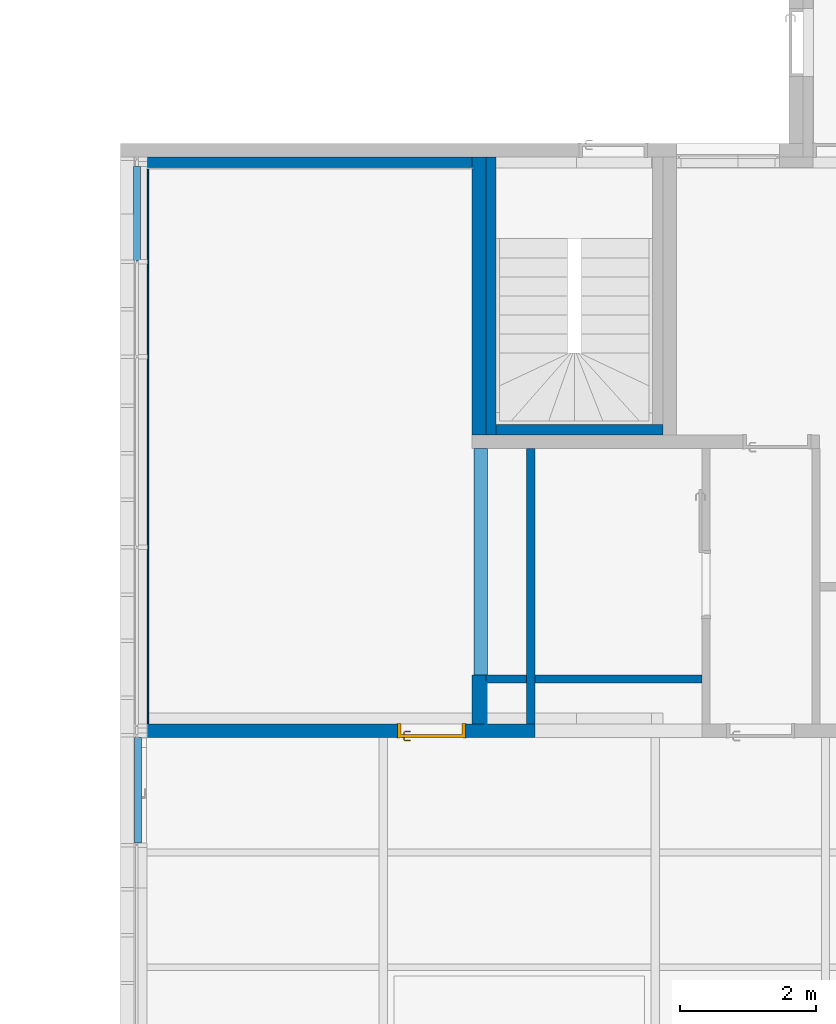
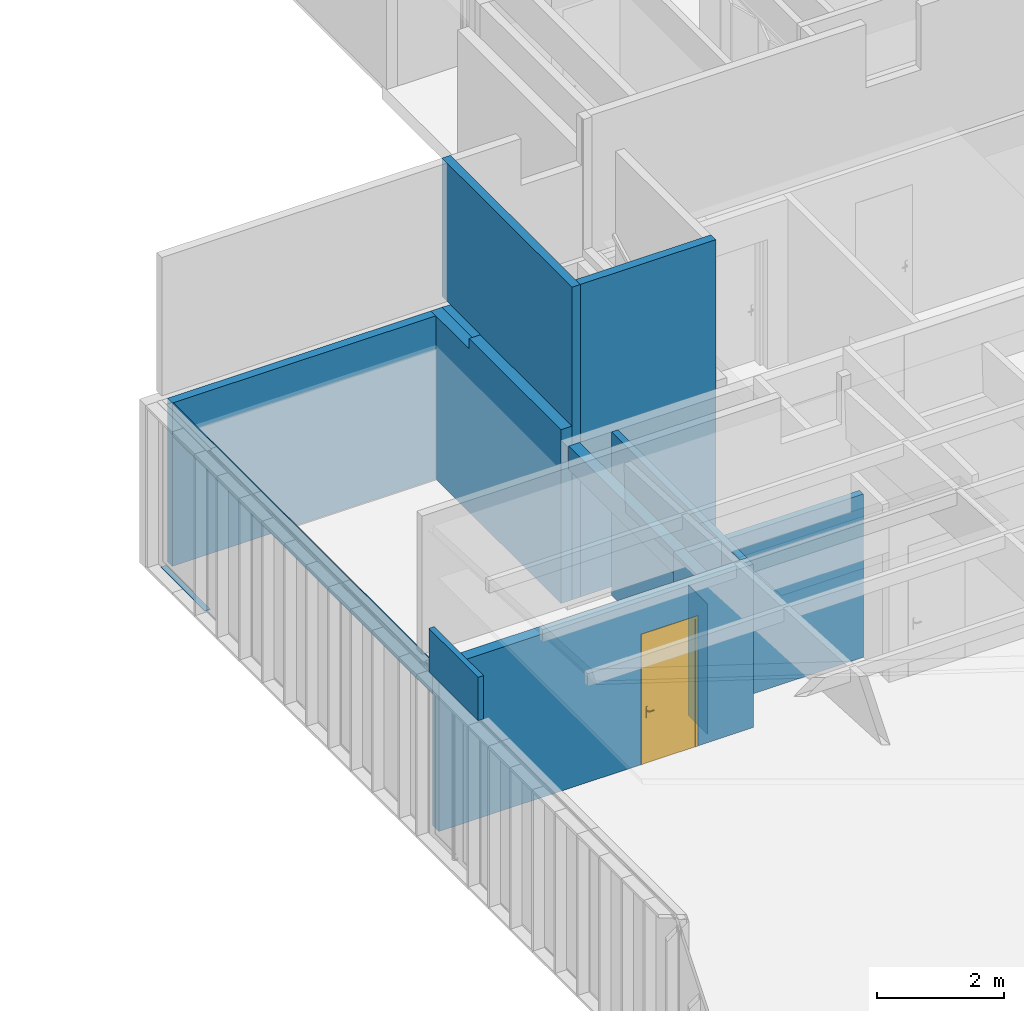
# One storey, part 82 of 240: 13 walls, 1 door, 5 openings, 1 element without a shape of its own.
"""IFC2X3 building model written with IfcOpenShell, lengths in centimetres."""

from ifc_helpers import new_model, entity, si_unit, converted_unit, derived_unit, direction, frame, frame_2d, origin, origin_2d_with_axis, place, context, subcontext, project, spatial, polyline, rectangle, extrude, clip, bounded_halfspace, faceted_brep, source, transform, mapped, material, material_list, layer, layer_set, layer_usage, type_object, type_shapes, element, fill, aggregate, save


model = new_model("IFC2X3")

# Units and contexts
model_context = context("Model", 3, precision=0.001, world=origin(), true_north=direction((6.12303176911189e-17, 1.0)))
body_context = subcontext(model_context, "Body", "Model", "MODEL_VIEW")
ifc_project = project(units=[si_unit("LENGTHUNIT", "METRE", prefix="CENTI"), si_unit("AREAUNIT", "SQUARE_METRE"), si_unit("VOLUMEUNIT", "CUBIC_METRE"), converted_unit("PLANEANGLEUNIT", "DEGREE", entity("IfcRatioMeasure", 0.0174532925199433), si_unit("PLANEANGLEUNIT", "RADIAN"), dimensions=[0, 0, 0, 0, 0, 0, 0]), si_unit("MASSUNIT", "GRAM", prefix="KILO"), derived_unit("MASSDENSITYUNIT", [(si_unit("MASSUNIT", "GRAM", prefix="KILO"), 1), (si_unit("LENGTHUNIT", "METRE"), -3)]), si_unit("TIMEUNIT", "SECOND"), si_unit("FREQUENCYUNIT", "HERTZ"), si_unit("THERMODYNAMICTEMPERATUREUNIT", "DEGREE_CELSIUS"), derived_unit("THERMALTRANSMITTANCEUNIT", [(si_unit("MASSUNIT", "GRAM", prefix="KILO"), 1), (si_unit("THERMODYNAMICTEMPERATUREUNIT", "KELVIN"), -1), (si_unit("TIMEUNIT", "SECOND"), -3)]), derived_unit("VOLUMETRICFLOWRATEUNIT", [(si_unit("LENGTHUNIT", "METRE"), 3), (si_unit("TIMEUNIT", "SECOND"), -1)]), si_unit("ELECTRICCURRENTUNIT", "AMPERE"), si_unit("ELECTRICVOLTAGEUNIT", "VOLT"), si_unit("POWERUNIT", "WATT"), si_unit("FORCEUNIT", "NEWTON", prefix="KILO"), si_unit("ILLUMINANCEUNIT", "LUX"), si_unit("LUMINOUSFLUXUNIT", "LUMEN"), si_unit("LUMINOUSINTENSITYUNIT", "CANDELA"), derived_unit("USERDEFINED", [(si_unit("MASSUNIT", "GRAM", prefix="KILO"), -1), (si_unit("LENGTHUNIT", "METRE"), -2), (si_unit("TIMEUNIT", "SECOND"), 3), (si_unit("LUMINOUSFLUXUNIT", "LUMEN"), 1)]), derived_unit("LINEARVELOCITYUNIT", [(si_unit("LENGTHUNIT", "METRE"), 1), (si_unit("TIMEUNIT", "SECOND"), -1)]), si_unit("PRESSUREUNIT", "PASCAL"), derived_unit("USERDEFINED", [(si_unit("LENGTHUNIT", "METRE"), -2), (si_unit("MASSUNIT", "GRAM", prefix="KILO"), 1), (si_unit("TIMEUNIT", "SECOND"), -2)])], contexts=[model_context])

# Site, building, storey
site_placement = place(None, frame((-2781.94577612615, 7442.24238424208, 0.0)))
site = spatial("IfcSite", under=ifc_project, at=site_placement, Name="Default", CompositionType="ELEMENT")
building_placement = place(site_placement, origin())
building = spatial("IfcBuilding", under=site, at=building_placement, CompositionType="ELEMENT")
storey_placement = place(building_placement, origin())
storey = spatial("IfcBuildingStorey", under=building, at=storey_placement, Name="N00 - COO", CompositionType="ELEMENT", Elevation=0.0)

# Walls
ifc_material_1 = material(Name="00 - Isolant")
ifc_layer_1 = layer(ifc_material_1, 14.0)
ifc_material_2 = material(Name="01 - Enduit/Plâtre")
ifc_layer_2 = layer(ifc_material_2, 1.3)
ifc_layer_set_1 = layer_set([ifc_layer_1, ifc_layer_2], Name="Mur de base:04 - Parement -  isolant 14 cm + BA13")
ifc_layer_usage_1 = layer_usage(ifc_layer_set_1, "AXIS2", "NEGATIVE", 7.65)
wall_type_1 = type_object("IfcWallType", Name="Mur de base:04 - Parement -  isolant 14 cm + BA13", PredefinedType="STANDARD", material=ifc_layer_set_1)
wall_1_placement = place(building_placement, frame((-11844.8844031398, -3380.17180651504, 0.0)))
element("IfcWallStandardCase", 1, at=wall_1_placement, inside=storey, type_object=wall_type_1, material=ifc_layer_usage_1, Name="Mur de base:04 - Parement -  isolant 14 cm + BA13", ObjectType="Mur de base:04 - Parement -  isolant 14 cm + BA13", context=body_context, shape_type="SweptSolid", body=[
    extrude(rectangle(XDim=477.401595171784, YDim=15.3, at=frame_2d((238.700797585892, -1.02140518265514e-14), x_axis=(-1.0, 0.0))), origin(), (0.0, 0.0, 1.0), 313.0),
])
ifc_material_3 = material(Name="01 - Maçonnerie")
ifc_layer_3 = layer(ifc_material_3, 20.0)
ifc_layer_set_2 = layer_set([ifc_layer_3], Name="Mur de base:04 - Structure - béton - 20cm")
ifc_layer_usage_2 = layer_usage(ifc_layer_set_2, "AXIS2", "NEGATIVE", 10.0)
wall_type_2 = type_object("IfcWallType", Name="Mur de base:04 - Structure - béton - 20cm", PredefinedType="STANDARD", material=ifc_layer_set_2)
wall_2_placement = place(building_placement, frame((-11357.482807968, -3372.52180651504, 0.0), z_axis=(0.0, 0.0, 1.0), x_axis=(0.0, -1.0, 0.0)))
element("IfcWallStandardCase", 2, at=wall_2_placement, inside=storey, type_object=wall_type_2, material=ifc_layer_usage_2, Name="Mur de base:04 - Structure - béton - 20cm", ObjectType="Mur de base:04 - Structure - béton - 20cm", context=body_context, shape_type="Clipping", body=[
    clip(clip(extrude(rectangle(XDim=408.197854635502, YDim=19.9999999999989, at=frame_2d((204.098927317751, 0.0), x_axis=(-1.0, 0.0))), origin(), (0.0, 0.0, 1.0), 332.999999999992), bounded_halfspace(frame((119.89785463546, -10.0, 313.0), z_axis=(0.0, 0.0, -1.0), x_axis=(1.0, 0.0, 0.0)), True, frame((119.89785463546, -10.0, 313.0), z_axis=(0.0, 0.0, -1.0), x_axis=(1.0, 0.0, 0.0)), polyline([(0.0, 0.0), (-119.89785463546, 0.0), (-119.89785463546, -20.0), (0.0, -20.0), (0.0, 0.0)]))), bounded_halfspace(frame((119.89785463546, 10.0, 313.0), z_axis=(1.0, 0.0, 0.0), x_axis=(0.0, 0.0, 1.0)), True, frame((119.89785463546, 10.0, 313.0), z_axis=(1.0, 0.0, 0.0), x_axis=(0.0, 0.0, 1.0)), polyline([(0.0, 0.0), (20.0, 0.0), (20.0, 20.0), (0.0, 20.0), (0.0, 0.0)]))),
])
ifc_layer_usage_3 = layer_usage(ifc_layer_set_2, "AXIS2", "NEGATIVE", 10.0)
wall_3_placement = place(building_placement, frame((-11357.482807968, -4133.50027342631, 0.0), z_axis=(0.0, 0.0, 1.0), x_axis=(0.0, -1.0, 0.0)))
element("IfcWallStandardCase", 3, at=wall_3_placement, inside=storey, type_object=wall_type_2, material=ifc_layer_usage_3, Name="Mur de base:04 - Structure - béton - 20cm", ObjectType="Mur de base:04 - Structure - béton - 20cm", context=body_context, shape_type="SweptSolid", body=[
    extrude(rectangle(XDim=72.0000000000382, YDim=19.9999999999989, at=frame_2d((36.0000000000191, 0.0), x_axis=(-1.0, 0.0))), origin(), (0.0, 0.0, 1.0), 313.000000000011),
])

# Wall, opening, door
ifc_layer_usage_4 = layer_usage(ifc_layer_set_2, "AXIS2", "NEGATIVE", 10.0)
wall_4_placement = place(building_placement, frame((-11275.482807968, -4215.50027342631, 0.0), z_axis=(0.0, 0.0, 1.0), x_axis=(-1.0, 0.0, 0.0)))
wall_4 = element("IfcWallStandardCase", 4, at=wall_4_placement, inside=storey, type_object=wall_type_2, material=ifc_layer_usage_4, Name="Mur de base:04 - Structure - béton - 20cm", ObjectType="Mur de base:04 - Structure - béton - 20cm", context=body_context, shape_type="SweptSolid", body=[
    extrude(rectangle(XDim=569.867766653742, YDim=20.0000000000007, at=frame_2d((284.933883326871, 0.0), x_axis=(-1.0, 0.0))), origin(), (0.0, 0.0, 1.0), 313.000000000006),
])
opening_1_placement = place(wall_4_placement, frame((102.0, -10.0, 0.0)))
opening_1 = element("IfcOpeningElement", 5, at=opening_1_placement, cuts=wall_4, Name="Int. Simple:PP (0.93m x 2.50m):1", ObjectType="Opening", context=body_context, shape_type="SweptSolid", body=[
    extrude(rectangle(XDim=248.500000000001, YDim=99.9999999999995, at=frame_2d((124.250000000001, 50.0), x_axis=(1.0, 0.0))), frame((0.0, 0.0, 0.0), z_axis=(0.0, 1.0, 0.0), x_axis=(0.0, 0.0, 1.0)), (0.0, 0.0, 1.0), 20.0),
])
ifc_material_4 = material(Name="Finition Peinture - Blanc satiné")
ifc_material_5 = material(Name="Bois - Panneau de porte")
ifc_material_6 = material(Name="Bois - Cadre de porte")
ifc_material_list_1 = material_list([ifc_material_4, ifc_material_5, ifc_material_6])
ifc_material_list_2 = material_list([ifc_material_4, ifc_material_5, ifc_material_6])
door_style = type_object("IfcDoorStyle", Name="PP (0.93m x 2.50m)", ConstructionType="NOTDEFINED", OperationType="SINGLE_SWING_LEFT", ParameterTakesPrecedence=False, Sizeable=False, material=ifc_material_list_2)
shared_shape = source(origin(), body_context, "Body", "Brep", [
    faceted_brep([(10.5352761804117, -0.500000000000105, 86.6003983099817), (11.5000000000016, -0.500000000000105, 87.0), (11.5000000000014, -0.500000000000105, 108.0), (10.5352761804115, -0.500000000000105, 108.399601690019), (9.50000000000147, -0.500000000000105, 108.535898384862), (8.46472381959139, -0.500000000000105, 108.399601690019), (7.50000000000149, -0.500000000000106, 108.0), (7.50000000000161, -0.500000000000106, 87.0), (8.46472381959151, -0.500000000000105, 86.6003983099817), (9.50000000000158, -0.500000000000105, 86.464101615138), (10.5352761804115, 0.0, 108.399601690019), (11.5000000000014, 0.0, 108.0), (11.5000000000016, 0.0, 87.0), (10.5352761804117, 0.0, 86.6003983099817), (9.50000000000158, 0.0, 86.464101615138), (8.46472381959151, 0.0, 86.6003983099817), (7.50000000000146, 0.0, 87.0), (7.50000000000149, 0.0, 108.0), (8.46472381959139, 0.0, 108.399601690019), (9.50000000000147, 0.0, 108.535898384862)], [[[0, 1, 2, 3, 4, 5, 6, 7, 8, 9]], [[10, 11, 12, 13, 14, 15, 16, 17, 18, 19]], [[16, 15, 8, 7]], [[8, 15, 14, 9]], [[14, 13, 0, 9]], [[13, 12, 1, 0]], [[2, 1, 12, 11]], [[11, 10, 3, 2]], [[3, 10, 19, 4]], [[19, 18, 5, 4]], [[18, 17, 6, 5]], [[7, 6, 17, 16]]]),
    faceted_brep([(10.5352761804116, 4.0, 86.6003983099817), (11.5000000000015, 4.0, 87.0), (11.5000000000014, 4.0, 108.0), (10.5352761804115, 4.0, 108.399601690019), (9.50000000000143, 4.0, 108.535898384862), (8.46472381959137, 4.0, 108.399601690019), (7.50000000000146, 4.0, 108.0), (7.50000000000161, 4.0, 87.0), (8.46472381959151, 4.0, 86.6003983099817), (9.50000000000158, 4.0, 86.464101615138), (10.5352761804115, 4.49999999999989, 108.399601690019), (11.5000000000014, 4.49999999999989, 108.0), (11.5000000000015, 4.49999999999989, 87.0), (10.5352761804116, 4.49999999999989, 86.6003983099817), (9.50000000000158, 4.49999999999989, 86.464101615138), (8.46472381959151, 4.49999999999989, 86.6003983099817), (7.50000000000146, 4.49999999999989, 87.0), (7.50000000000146, 4.49999999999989, 108.0), (8.46472381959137, 4.49999999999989, 108.399601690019), (9.50000000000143, 4.49999999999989, 108.535898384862)], [[[0, 1, 2, 3, 4, 5, 6, 7, 8, 9]], [[10, 11, 12, 13, 14, 15, 16, 17, 18, 19]], [[11, 10, 3, 2]], [[3, 10, 19, 4]], [[19, 18, 5, 4]], [[18, 17, 6, 5]], [[7, 6, 17, 16]], [[16, 15, 8, 7]], [[8, 15, 14, 9]], [[14, 13, 0, 9]], [[13, 12, 1, 0]], [[2, 1, 12, 11]]]),
    faceted_brep([(9.29747013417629, -0.500000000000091, 100.778044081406), (9.70252986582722, -0.500000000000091, 100.778044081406), (10.1000000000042, -0.500000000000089, 100.699999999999), (10.1000000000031, -0.500000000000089, 99.3000000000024), (9.7025298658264, -0.500000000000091, 99.2219559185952), (9.29747013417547, -0.500000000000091, 99.221955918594), (8.8999999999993, -0.500000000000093, 99.2999999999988), (8.89999999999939, -0.500000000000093, 100.7), (8.89999999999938, -3.26509507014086, 100.7), (9.29747013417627, -3.10045754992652, 100.778044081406), (10.9023585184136, -4.70534593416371, 100.778044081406), (11.0701397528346, -4.30028620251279, 100.778044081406), (9.7025298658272, -2.93267631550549, 100.778044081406), (10.1000000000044, -2.76803879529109, 100.7), (10.1000000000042, -2.76803879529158, 99.3000000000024), (9.7025298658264, -2.93267631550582, 99.2219559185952), (11.0701397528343, -4.30028620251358, 99.2219559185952), (10.9023585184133, -4.70534593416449, 99.221955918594), (9.29747013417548, -3.10045754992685, 99.221955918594), (8.89999999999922, -3.26509507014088, 99.2999999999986), (10.7377209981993, -5.10281606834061, 100.7), (11.2347772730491, -3.90281606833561, 100.7), (11.2347772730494, -3.90281606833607, 99.3000000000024), (10.7377209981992, -5.10281606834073, 99.2999999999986), (19.5018640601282, -5.1028160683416, 99.2999999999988), (19.5018640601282, -4.70534593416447, 99.221955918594), (19.5018640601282, -4.30028620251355, 99.2219559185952), (19.5018640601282, -3.90281606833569, 99.3000000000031), (19.5018640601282, -3.90281606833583, 100.7), (19.5018640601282, -4.30028620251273, 100.778044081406), (19.5018640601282, -4.70534593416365, 100.778044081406), (19.5018640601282, -5.10281606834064, 100.699999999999), (14.7307697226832, -5.10281606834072, 100.7), (15.2860019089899, -4.5028160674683, 100.78786867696), (15.3683206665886, -3.9028160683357, 100.7), (15.3683206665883, -3.90281606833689, 99.3000000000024), (15.2860018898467, -4.50281607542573, 99.2121313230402), (14.7307700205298, -5.10281606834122, 99.2999999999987)], [[[0, 1, 2, 3, 4, 5, 6, 7]], [[8, 9, 0, 7]], [[9, 10, 11, 12, 1, 0]], [[12, 13, 2, 1]], [[3, 2, 13, 14]], [[14, 15, 4, 3]], [[15, 16, 17, 18, 5, 4]], [[18, 19, 6, 5]], [[7, 6, 19, 8]], [[20, 10, 9, 8]], [[11, 21, 13, 12]], [[14, 13, 21, 22]], [[22, 16, 15, 14]], [[17, 23, 19, 18]], [[8, 19, 23, 20]], [[24, 25, 26, 27, 28, 29, 30, 31]], [[32, 30, 33]], [[31, 30, 32]], [[10, 20, 32]], [[33, 34, 11]], [[21, 11, 34]], [[34, 29, 28]], [[30, 29, 33]], [[29, 34, 33]], [[10, 32, 33]], [[10, 33, 11]], [[22, 21, 34, 28, 27, 35]], [[35, 26, 36]], [[37, 36, 25]], [[22, 35, 16]], [[35, 27, 26]], [[24, 37, 25]], [[23, 17, 37]], [[37, 17, 36]], [[17, 16, 36]], [[16, 35, 36]], [[25, 36, 26]], [[20, 23, 37, 24, 31, 32]]]),
    faceted_brep([(9.29747013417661, 4.49999999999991, 100.778044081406), (8.89999999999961, 4.4999999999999, 100.7), (8.89999999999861, 4.4999999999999, 99.2999999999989), (9.29747013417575, 4.49999999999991, 99.221955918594), (9.70252986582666, 4.49999999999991, 99.2219559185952), (10.1000000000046, 4.49999999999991, 99.3000000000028), (10.1000000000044, 4.49999999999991, 100.7), (9.70252986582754, 4.49999999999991, 100.778044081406), (10.1000000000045, 6.7485204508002, 99.3000000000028), (10.1000000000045, 6.74852045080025, 100.7), (9.70252986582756, 6.91315797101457, 100.778044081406), (11.083890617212, 8.29451872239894, 100.778044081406), (10.916109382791, 8.69957845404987, 100.778044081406), (9.29747013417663, 7.0809392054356, 100.778044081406), (8.89999999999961, 7.24557672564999, 100.7), (8.89999999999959, 7.2455767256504, 99.2999999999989), (9.29747013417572, 7.08093920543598, 99.221955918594), (10.9161093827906, 8.69957845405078, 99.221955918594), (11.0838906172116, 8.29451872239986, 99.2219559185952), (9.70252986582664, 6.91315797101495, 99.2219559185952), (11.2485281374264, 7.89704858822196, 99.3000000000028), (11.2485281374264, 7.89704858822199, 100.7), (10.7514718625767, 9.09704858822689, 100.7), (10.7514718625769, 9.0970485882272, 99.2999999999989), (19.5045783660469, 7.89704858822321, 99.3000000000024), (19.5045783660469, 8.29451872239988, 99.2219559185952), (19.5045783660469, 8.6995784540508, 99.221955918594), (19.5045783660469, 9.09704858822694, 99.2999999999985), (19.5045783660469, 9.09704858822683, 100.7), (19.5045783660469, 8.69957845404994, 100.778044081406), (19.5045783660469, 8.29451872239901, 100.778044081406), (19.5045783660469, 7.89704858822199, 100.7), (15.3765520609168, 7.89704858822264, 99.3000000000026), (15.3765532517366, 7.89704858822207, 100.7), (15.294234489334, 8.49704858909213, 100.78786867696), (14.7445205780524, 9.09704858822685, 100.7), (14.7445204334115, 9.09704858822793, 99.2999999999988), (15.2942345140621, 8.49704858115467, 99.2121313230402)], [[[0, 1, 2, 3, 4, 5, 6, 7]], [[6, 5, 8, 9]], [[9, 10, 7, 6]], [[10, 11, 12, 13, 0, 7]], [[13, 14, 1, 0]], [[2, 1, 14, 15]], [[15, 16, 3, 2]], [[16, 17, 18, 19, 4, 3]], [[19, 8, 5, 4]], [[9, 8, 20, 21]], [[21, 11, 10, 9]], [[12, 22, 14, 13]], [[15, 14, 22, 23]], [[23, 17, 16, 15]], [[18, 20, 8, 19]], [[24, 25, 26, 27, 28, 29, 30, 31]], [[21, 20, 32, 24, 31, 33]], [[33, 30, 34]], [[35, 34, 29]], [[21, 33, 11]], [[33, 31, 30]], [[28, 35, 29]], [[22, 12, 35]], [[35, 12, 34]], [[12, 11, 34]], [[11, 33, 34]], [[29, 34, 30]], [[22, 35, 28, 27, 36, 23]], [[36, 26, 37]], [[27, 26, 36]], [[17, 23, 36]], [[37, 32, 18]], [[20, 18, 32]], [[32, 25, 24]], [[26, 25, 37]], [[25, 32, 37]], [[17, 36, 37]], [[17, 37, 18]]]),
    faceted_brep([(3.50000000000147, 4.0, 245.0), (96.5000000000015, 4.0, 245.0), (96.5000000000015, 4.0, 0.0), (3.50000000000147, 4.0, 0.0), (3.50000000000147, 0.0, 245.0), (3.50000000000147, 0.0, 0.0), (96.5000000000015, 0.0, 0.0), (96.5000000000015, 0.0, 245.0)], [[[0, 1, 2, 3]], [[4, 5, 6, 7]], [[1, 0, 4, 7]], [[2, 1, 7, 6]], [[3, 2, 6, 5]], [[0, 3, 5, 4]]]),
    faceted_brep([(0.0, 20.0, 0.0), (-1.50000000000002, 20.0, 0.0), (-1.50000000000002, 20.5000000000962, 0.0), (5.0, 20.5000000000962, 0.0), (5.0, 4.0, 0.0), (3.50000000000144, 4.0, 0.0), (3.50000000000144, -0.500000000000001, 0.0), (-1.50000000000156, -0.500000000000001, 0.0), (-1.50000000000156, 0.0, 0.0), (0.0, 0.0, 0.0), (0.0, 20.0, 248.500000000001), (100.0, 20.0, 248.500000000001), (100.0, 20.0, 0.0), (101.5, 20.0, 0.0), (101.5, 20.0, 250.0), (-1.50000000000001, 20.0, 250.0), (-1.50000000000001, 20.5000000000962, 250.0), (101.5, 20.5000000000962, 250.0), (101.5, 20.5000000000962, 0.0), (95.0, 20.5000000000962, 0.0), (95.0, 20.5000000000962, 243.5), (5.0, 20.5000000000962, 243.5), (5.0, 4.0, 243.5), (95.0, 4.0, 243.5), (95.0, 4.0, 0.0), (96.499999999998, 4.0, 0.0), (96.499999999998, 4.0, 245.0), (3.50000000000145, 4.0, 245.0), (3.50000000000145, -0.500000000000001, 245.0), (96.499999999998, -0.500000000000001, 245.0), (96.499999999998, -0.500000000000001, 0.0), (101.500000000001, -0.500000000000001, 0.0), (101.500000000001, -0.500000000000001, 250.0), (-1.50000000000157, -0.500000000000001, 250.0), (-1.50000000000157, 0.0, 250.0), (101.500000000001, 0.0, 250.0), (101.500000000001, 0.0, 0.0), (100.0, 0.0, 0.0), (100.0, 0.0, 248.500000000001), (0.0, 0.0, 248.500000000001)], [[[0, 1, 2, 3, 4, 5, 6, 7, 8, 9]], [[1, 0, 10, 11, 12, 13, 14, 15]], [[2, 1, 15, 16]], [[3, 2, 16, 17, 18, 19, 20, 21]], [[3, 21, 22, 4]], [[5, 4, 22, 23, 24, 25, 26, 27]], [[5, 27, 28, 6]], [[7, 6, 28, 29, 30, 31, 32, 33]], [[8, 7, 33, 34]], [[9, 8, 34, 35, 36, 37, 38, 39]], [[0, 9, 39, 10]], [[11, 38, 37, 12]], [[12, 37, 36, 31, 30, 25, 24, 19, 18, 13]], [[17, 14, 13, 18]], [[23, 20, 19, 24]], [[29, 26, 25, 30]], [[35, 32, 31, 36]], [[16, 15, 14, 17]], [[22, 21, 20, 23]], [[28, 27, 26, 29]], [[34, 33, 32, 35]], [[10, 39, 38, 11]]]),
])
type_shapes(door_style, [shared_shape])
door_placement = place(opening_1_placement, frame((100.0, 20.0, 0.0), z_axis=(0.0, 0.0, 1.0), x_axis=(-1.0, 0.0, 0.0)))
door = element("IfcDoor", 6, at=door_placement, inside=storey, type_object=door_style, material=ifc_material_list_1, Name="Int. Simple:PP (0.93m x 2.50m)", ObjectType="Int. Simple:PP (0.93m x 2.50m)", OverallHeight=248.500000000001, OverallWidth=99.9999999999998, context=body_context, shape_type="MappedRepresentation", body=[
    mapped(shared_shape, transform((0.0, 0.0, 0.0), scale=1.0)),
])
fill(opening_1, door)

# Wall
ifc_layer_usage_5 = layer_usage(ifc_layer_set_2, "AXIS2", "NEGATIVE", 10.0)
wall_5_placement = place(building_placement, frame((-11354.9460663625, -4133.50027342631, 267.876761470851), z_axis=(0.0, 0.0, 1.0), x_axis=(0.0, 1.0, 0.0)))
element("IfcWallStandardCase", 7, at=wall_5_placement, inside=storey, type_object=wall_type_2, material=ifc_layer_usage_5, Name="Mur de base:04 - Structure - béton - 20cm", ObjectType="Mur de base:04 - Structure - béton - 20cm", context=body_context, shape_type="SweptSolid", body=[
    extrude(rectangle(XDim=332.780612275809, YDim=19.9999999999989, at=frame_2d((166.390306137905, 0.0), x_axis=(-1.0, 0.0))), origin(), (0.0, 0.0, 1.0), 45.1232385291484),
])

# Curtain wall, wall, opening
curtain_wall_type = type_object("IfcCurtainWallType", Name="Mur-rideau:07 - mur rideau trame 280 cm", PredefinedType="NOTDEFINED")
curtain_wall_placement = place(building_placement, origin())
curtain_wall = element("IfcCurtainWall", 8, at=curtain_wall_placement, inside=storey, type_object=curtain_wall_type, Name="Mur-rideau:07 - mur rideau trame 280 cm", ObjectType="Mur-rideau:07 - mur rideau trame 280 cm")
ifc_layer_4 = layer(ifc_material_2, 1.3)
ifc_layer_5 = layer(ifc_material_1, 7.4)
ifc_layer_6 = layer(ifc_material_2, 1.3)
ifc_layer_set_3 = layer_set([ifc_layer_4, ifc_layer_5, ifc_layer_6], Name="Mur de base:06 - cloisons - Ba13 10cm")
ifc_layer_usage_6 = layer_usage(ifc_layer_set_3, "AXIS2", "NEGATIVE", 5.0)
wall_type_3 = type_object("IfcWallType", Name="Mur de base:06 - cloisons - Ba13 10cm", PredefinedType="STANDARD", material=ifc_layer_set_3)
wall_6_placement = place(building_placement, frame((-11860.1844031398, -3525.13152342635, 4.11874999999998), z_axis=(0.0, 0.0, 1.0), x_axis=(0.0, 1.0, 0.0)))
wall_6 = element("IfcWallStandardCase", 9, at=wall_6_placement, type_object=wall_type_3, material=ifc_layer_usage_6, Name="Mur de base:06 - cloisons - Ba13 10cm", ObjectType="Mur de base:06 - cloisons - Ba13 10cm", context=body_context, shape_type="SweptSolid", body=[
    extrude(rectangle(XDim=139.13125, YDim=10.0000000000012, at=frame_2d((69.5656249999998, 1.51878509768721e-13), x_axis=(-1.0, 0.0))), origin(), (0.0, 0.0, 1.0), 0.981250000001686),
])
opening_2_placement = place(wall_6_placement, frame((-3.71521164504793, 5.10000000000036, 0.981250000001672), z_axis=(0.0, 0.0, 1.0), x_axis=(0.0, -1.0, 0.0)))
element("IfcOpeningElement", 10, at=opening_2_placement, cuts=wall_6, Name="Mur de base:06 - cloisons - Ba13 10cm", ObjectType="Opening", context=body_context, shape_type="Brep", body=[
    faceted_brep([(0.0, 2.0, 306.126840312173), (0.0, 154.550884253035, 306.126840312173), (0.0, 154.550884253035, 0.0), (0.0, 2.0, 0.0), (1.30000000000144, 2.0, 0.0), (1.30000000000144, 2.0, 306.126840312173), (1.2999999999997, 154.550884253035, 0.0), (1.30000000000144, 156.550884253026, 0.0), (61.2999999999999, 156.550884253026, 0.0), (61.2999999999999, 0.0, 0.0), (1.2999999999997, 0.0, 0.0), (1.30000000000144, 154.550884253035, 306.126840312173), (61.2999999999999, 156.550884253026, 308.126840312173), (61.2999999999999, 0.0, 308.126840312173), (1.2999999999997, 156.550884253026, 308.126840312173), (1.2999999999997, 0.0, 308.126840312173)], [[[0, 1, 2, 3]], [[3, 4, 5, 0]], [[2, 6, 7, 8, 9, 10, 4, 3]], [[1, 11, 6, 2]], [[0, 5, 11, 1]], [[12, 13, 9, 8]], [[14, 7, 6, 11, 5, 4, 10, 15]], [[8, 7, 14, 12]], [[13, 15, 10, 9]], [[12, 14, 15, 13]]]),
])
aggregate(curtain_wall, [wall_6])

# Wall, openings
ifc_layer_usage_7 = layer_usage(ifc_layer_set_3, "AXIS2", "NEGATIVE", 5.0)
wall_7_placement = place(building_placement, frame((-11858.8505746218, -4380.50173441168, 313.0), z_axis=(0.0, 0.0, 1.0), x_axis=(0.0, 1.0, 0.0)))
wall_7 = element("IfcWallStandardCase", 11, at=wall_7_placement, inside=storey, type_object=wall_type_3, material=ifc_layer_usage_7, Name="Mur de base:06 - cloisons - Ba13 10cm", ObjectType="Mur de base:06 - cloisons - Ba13 10cm", context=body_context, shape_type="SweptSolid", body=[
    extrude(rectangle(XDim=155.001460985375, YDim=10.0000000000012, at=frame_2d((77.5007304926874, 0.0), x_axis=(-1.0, 0.0))), origin(), (0.0, 0.0, 1.0), 82.9999999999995),
])
opening_3_placement = place(wall_7_placement, origin())
element("IfcOpeningElement", 12, at=opening_3_placement, cuts=wall_7, Name="Mur de base:06 - cloisons - Ba13 10cm", ObjectType="Opening", context=body_context, shape_type="SweptSolid", body=[
    extrude(rectangle(XDim=313.000000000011, YDim=853.478466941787, at=origin_2d_with_axis()), frame((581.240694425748, -20.2399999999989, -156.499999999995), z_axis=(0.0, 1.0, 0.0), x_axis=(0.0, 0.0, 1.0)), (0.0, 0.0, 1.0), 40.4799999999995),
])
opening_4_placement = place(wall_7_placement, frame((4380.50173441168, -11858.8505746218, -313.0), z_axis=(0.0, 0.0, 1.0), x_axis=(0.0, -1.0, 0.0)))
element("IfcOpeningElement", 13, at=opening_4_placement, cuts=wall_7, Name="Mur de base:06 - cloisons - Ba13 10cm", ObjectType="Opening", context=body_context, shape_type="SweptSolid", body=[
    extrude(rectangle(XDim=328.0, YDim=154.999999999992, at=origin_2d_with_axis()), frame((-11802.6505746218, -4303.25100393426, 149.0), z_axis=(-1.0, 0.0, 0.0), x_axis=(0.0, 0.0, -1.0)), (0.0, 0.0, 1.0), 61.2999999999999),
])

# Walls
ifc_layer_7 = layer(ifc_material_2, 1.3)
ifc_material_7 = material(Name="00 - VIDE D'AIR")
ifc_layer_8 = layer(ifc_material_7, 0.7)
ifc_layer_set_4 = layer_set([ifc_layer_7, ifc_layer_8], Name="Mur de base:06 - habillage Ba13 collée 2cm")
ifc_layer_usage_8 = layer_usage(ifc_layer_set_4, "AXIS2", "NEGATIVE", 1.0)
wall_type_4 = type_object("IfcWallType", Name="Mur de base:06 - habillage Ba13 collée 2cm", PredefinedType="STANDARD", material=ifc_layer_set_4)
wall_8_placement = place(storey_placement, frame((-11843.8844031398, -4205.50027342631, 250.0), z_axis=(0.0, 0.0, 1.0), x_axis=(0.0, 1.0, 0.0)))
element("IfcWallStandardCase", 14, at=wall_8_placement, inside=storey, type_object=wall_type_4, material=ifc_layer_usage_8, Name="Mur de base:06 - habillage Ba13 collée 2cm", ObjectType="Mur de base:06 - habillage Ba13 collée 2cm", context=body_context, shape_type="SweptSolid", body=[
    extrude(rectangle(XDim=817.678466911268, YDim=1.99999999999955, at=frame_2d((408.839233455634, -1.04360964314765e-14), x_axis=(-1.0, 0.0))), origin(), (0.0, 0.0, 1.0), 62.9999999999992),
])
ifc_layer_9 = layer(ifc_material_2, 1.0)
ifc_material_8 = material(Name="Maçonnerie - Béton")
ifc_layer_10 = layer(ifc_material_8, 10.0)
ifc_layer_11 = layer(ifc_material_2, 1.0)
ifc_layer_set_5 = layer_set([ifc_layer_9, ifc_layer_10, ifc_layer_11], Name="Mur de base:06 - cloisons - agglos10 + faïence 12cm")
ifc_layer_usage_9 = layer_usage(ifc_layer_set_5, "AXIS2", "NEGATIVE", 6.0)
wall_type_5 = type_object("IfcWallType", Name="Mur de base:06 - cloisons - agglos10 + faïence 12cm", PredefinedType="STANDARD", material=ifc_layer_set_5)
wall_9_placement = place(building_placement, frame((-11281.482807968, -3800.7196611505, 0.0), z_axis=(0.0, 0.0, 1.0), x_axis=(0.0, -1.0, 0.0)))
element("IfcWallStandardCase", 15, at=wall_9_placement, inside=storey, type_object=wall_type_5, material=ifc_layer_usage_9, Name="Mur de base:06 - cloisons - agglos10 + faïence 12cm", ObjectType="Mur de base:06 - cloisons - agglos10 + faïence 12cm", context=body_context, shape_type="SweptSolid", body=[
    extrude(rectangle(XDim=404.780612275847, YDim=12.0000000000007, at=frame_2d((202.390306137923, 0.0), x_axis=(-1.0, 0.0))), origin(), (0.0, 0.0, 1.0), 313.0),
])

# Wall, opening
ifc_layer_usage_10 = layer_usage(ifc_layer_set_5, "AXIS2", "NEGATIVE", 6.0)
wall_10_placement = place(building_placement, frame((-11029.932180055, -4139.50027342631, 0.0), z_axis=(0.0, 0.0, 1.0), x_axis=(-1.0, 0.0, 0.0)))
wall_10 = element("IfcWallStandardCase", 16, at=wall_10_placement, inside=storey, type_object=wall_type_5, material=ifc_layer_usage_10, Name="Mur de base:06 - cloisons - agglos10 + faïence 12cm", ObjectType="Mur de base:06 - cloisons - agglos10 + faïence 12cm", context=body_context, shape_type="SweptSolid", body=[
    extrude(rectangle(XDim=317.550627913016, YDim=12.0000000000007, at=frame_2d((158.775313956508, 0.0), x_axis=(-1.0, 0.0))), origin(), (0.0, 0.0, 1.0), 313.000000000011),
])
opening_5_placement = place(building_placement, frame((-11029.932180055, -4139.50027342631, 0.0), z_axis=(0.0, 0.0, 1.0), x_axis=(-1.0, 0.0, 0.0)))
element("IfcOpeningElement", 17, at=opening_5_placement, cuts=wall_10, Name="Mur de base:06 - cloisons - agglos10 + faïence 12cm:1", ObjectType="Opening", context=body_context, shape_type="SweptSolid", body=[
    extrude(rectangle(XDim=313.000000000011, YDim=11.9999999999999, at=frame_2d((-2.8421709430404e-14, 4.33431068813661e-13), x_axis=(1.0, 0.0))), frame((257.550627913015, 0.0, 156.500000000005), z_axis=(-1.0, 0.0, 0.0), x_axis=(0.0, 0.0, 1.0)), (0.0, 0.0, 1.0), 12.0000000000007),
])

# Walls
ifc_layer_12 = layer(ifc_material_2, 1.3)
ifc_layer_13 = layer(ifc_material_1, 14.0)
ifc_layer_set_6 = layer_set([ifc_layer_12, ifc_layer_13], Name="Mur de base:04 - Parement - ITI 14cm")
ifc_layer_usage_11 = layer_usage(ifc_layer_set_6, "AXIS2", "NEGATIVE", 7.65)
wall_type_6 = type_object("IfcWallType", Name="Mur de base:04 - Parement - ITI 14cm", PredefinedType="STANDARD", material=ifc_layer_set_6)
wall_11_placement = place(building_placement, frame((-11339.832807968, -3372.52180651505, 0.0), z_axis=(0.0, 0.0, 1.0), x_axis=(0.0, -1.0, 0.0)))
element("IfcWallStandardCase", 18, at=wall_11_placement, inside=storey, type_object=wall_type_6, material=ifc_layer_usage_11, Name="Mur de base:04 - Parement - ITI 14cm", ObjectType="Mur de base:04 - Parement - ITI 14cm", context=body_context, shape_type="Clipping", body=[
    clip(extrude(rectangle(XDim=408.197854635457, YDim=15.3000000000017, at=frame_2d((204.098927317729, 0.0), x_axis=(-1.0, 0.0))), origin(), (0.0, 0.0, 1.0), 599.0), bounded_halfspace(frame((119.897854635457, 7.65000000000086, 313.0), z_axis=(1.0, 0.0, 0.0), x_axis=(0.0, 0.0, 1.0)), True, frame((119.897854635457, 7.65000000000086, 313.0), z_axis=(1.0, 0.0, 0.0), x_axis=(0.0, 0.0, 1.0)), polyline([(0.0, 0.0), (21.0, 0.0), (21.0, 15.3), (0.0, 15.3), (0.0, 0.0)]))),
])
ifc_layer_usage_12 = layer_usage(ifc_layer_set_6, "AXIS2", "NEGATIVE", 7.65)
wall_12_placement = place(building_placement, frame((-11332.182807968, -3773.0696611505, 0.0)))
element("IfcWallStandardCase", 19, at=wall_12_placement, inside=storey, type_object=wall_type_6, material=ifc_layer_usage_12, Name="Mur de base:04 - Parement - ITI 14cm", ObjectType="Mur de base:04 - Parement - ITI 14cm", context=body_context, shape_type="SweptSolid", body=[
    extrude(rectangle(XDim=245.300000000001, YDim=15.3, at=frame_2d((122.650000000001, 2.88657986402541e-14), x_axis=(-1.0, 0.0))), origin(), (0.0, 0.0, 1.0), 599.0),
])
ifc_layer_14 = layer(ifc_material_2, 1.3)
ifc_layer_set_7 = layer_set([ifc_layer_14], Name="Mur de base:06 - habillage Ba13")
ifc_layer_usage_13 = layer_usage(ifc_layer_set_7, "AXIS2", "NEGATIVE", 0.65)
wall_type_7 = type_object("IfcWallType", Name="Mur de base:06 - habillage Ba13", PredefinedType="STANDARD", material=ifc_layer_set_7)
wall_13_placement = place(building_placement, frame((-11346.832807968, -4205.50027342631, 0.0), z_axis=(0.0, 0.0, 1.0), x_axis=(0.0, 1.0, 0.0)))
element("IfcWallStandardCase", 20, at=wall_13_placement, inside=storey, type_object=wall_type_7, material=ifc_layer_usage_13, Name="Mur de base:06 - habillage Ba13", ObjectType="Mur de base:06 - habillage Ba13", context=body_context, shape_type="SweptSolid", body=[
    extrude(rectangle(XDim=60.0000000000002, YDim=1.30000000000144, at=frame_2d((30.0000000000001, 0.0), x_axis=(-1.0, 0.0))), origin(), (0.0, 0.0, 1.0), 250.0),
])

save(model, "model.ifc")
